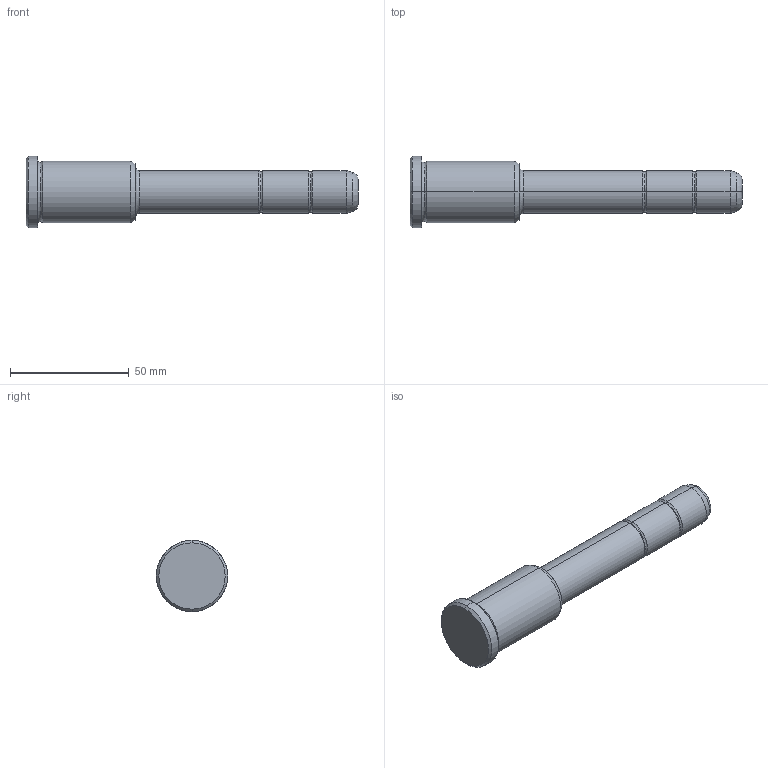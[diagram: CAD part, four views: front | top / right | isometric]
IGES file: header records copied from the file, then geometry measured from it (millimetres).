
Start section: START RECORD GO HERE.
Global section: file name: 351-18X46X140.igs; native system: DASSAULT SYSTEMES CATIA V5 R20 - www.3ds.com; preprocessor: CATIA Version 5 Release 20 ; author: Utente; organization: NB04-ASUS; date: 20210819.143606; units: millimetre
Bounding box: 140 x 30 x 30 mm (x, y, z)
Surface area: 10319.1 mm2 (no closed solid volume)
Topology: 0 solids, 0 shells, 36 faces, 204 edges, 204 vertices
Faces by surface type: revolution 32, plane 4
